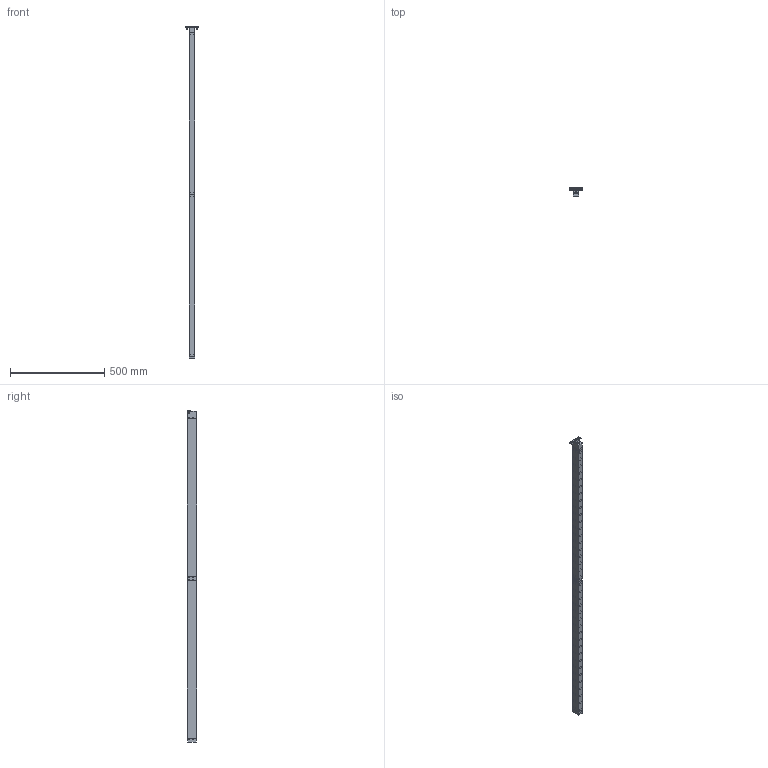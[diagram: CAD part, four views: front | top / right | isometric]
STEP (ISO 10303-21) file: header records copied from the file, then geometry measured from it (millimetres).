
FILE_DESCRIPTION(/* description */ ('DIE LIFTER'),/* implementation_level */ '2;1');
FILE_NAME(/* name */ 'S:\EASCN Vault\Designs\Standard Part\DIE LIFTERS\EHB\EHB- 3D step\EHB28 - 3D step complete serie\EHB28-38.stp',/* time_stamp */ '2019-11-27T11:14:51+08:00',/* author */ ('yue.yang'),/* organization */ (''),/* preprocessor_version */ 'ST-DEVELOPER v17',/* originating_system */ 'Autodesk Inventor 2019',/* authorisation */ '');
FILE_SCHEMA (('AUTOMOTIVE_DESIGN { 1 0 10303 214 3 1 1 }'));
Length unit declared in the file: millimetre
Products named in the file (2): EHB28-38; EHB28-38_Substitute_1
Assembly tree (1 placements, depth 2):
  EHB28-38
    EHB28-38_Substitute_1
Bounding box: 70 x 47.8 x 1759 mm (x, y, z)
Volume: 1973057.9 mm3; surface area: 501824.1 mm2
Topology: 41 solids, 41 shells, 1135 faces, 3056 edges, 2164 vertices
Faces by surface type: plane 456, cylinder 363, cone 160, torus 118, sphere 38
Full cylindrical faces by diameter (mm): 3 x3, 5 x14, 5.5 x2, 6 x43, 6.5 x3, 6.647 x4, 7.5 x1, 10 x5, 10.5 x1, 11.445 x1, 12 x3, 16 x38, 20 x38, 21.5 x38, 24.05 x38, 24.2 x38
Entity records: 43006 total; most frequent: CARTESIAN_POINT 11780, DIRECTION 6608, ORIENTED_EDGE 6084, EDGE_CURVE 3042, AXIS2_PLACEMENT_3D 2834, VERTEX_POINT 2164, CIRCLE 1696, EDGE_LOOP 1450
